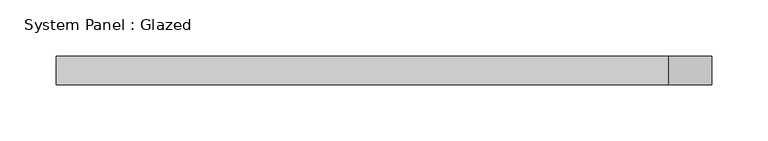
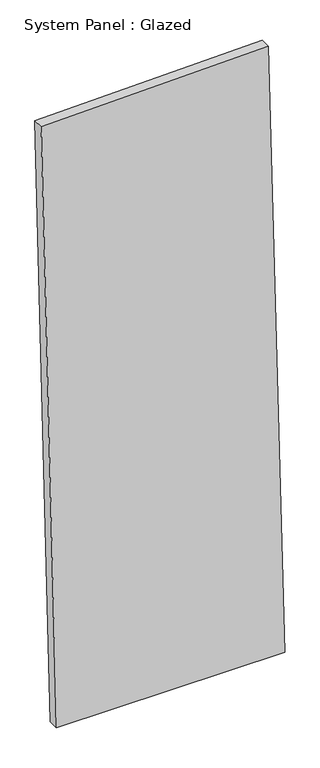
"""IFC4 building model written with IfcOpenShell, lengths in millimetres: plate geometry, System Panel : Glazed."""

from ifc_helpers import new_model, si_unit, frame, origin, place, context, project, spatial, polyline, outline, extrude, source, transform, mapped, element, save


def system_panel_glazed_f471192b(model_context):
    return source(origin(), model_context, "Body", "SweptSolid", [
        extrude(outline(polyline([(0.0, -255.1907169), (0.0, 292.2659241), (1551.0518659, 253.2934372), (1537.6192933, -292.2659241), (0.0, -255.1907169)])), frame((0.0, -44.45, 0.0), z_axis=(0.0, 1.0, 0.0), x_axis=(0.0, 0.0, 1.0)), (0.0, 0.0, 1.0), 25.4),
    ])


if __name__ == "__main__":
    model = new_model("IFC4")
    model_context = context("Model", 3, world=origin())
    ifc_project = project(units=[si_unit("LENGTHUNIT", "METRE", prefix="MILLI")], contexts=[model_context])
    site = spatial("IfcSite", under=ifc_project)
    building = spatial("IfcBuilding", under=site)
    placement = place(None, origin())
    system_panel_glazed_shape = system_panel_glazed_f471192b(model_context)
    element("IfcPlate", 1, ObjectType="System Panel : Glazed", at=placement, inside=building, context=model_context, shape_type="MappedRepresentation", body=[
        mapped(system_panel_glazed_shape, transform((0.0, 0.0, 0.0), x_axis=(1.0, 0.0, 0.0), y_axis=(0.0, 1.0, 0.0), z_axis=(0.0, 0.0, 1.0))),
    ])
    save(model, "model.ifc")
